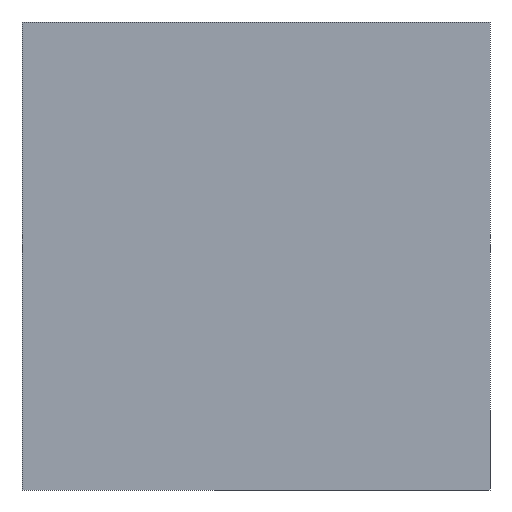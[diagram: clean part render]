
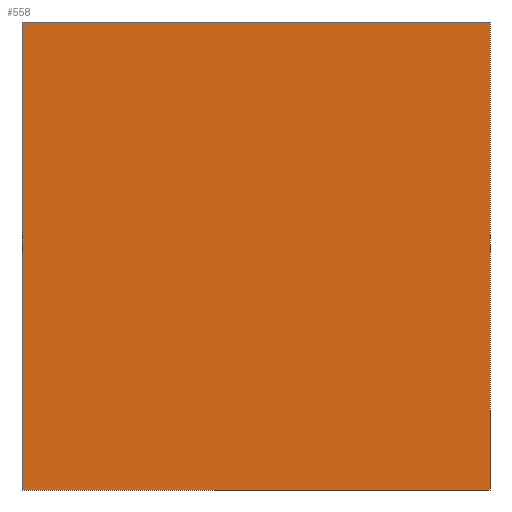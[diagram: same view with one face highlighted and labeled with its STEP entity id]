
A CAD part, left-side view. The second image highlights one B-rep face of the part: STEP entity #558.
In plain terms, the highlighted planar face has unit normal (-1, 0, 0).
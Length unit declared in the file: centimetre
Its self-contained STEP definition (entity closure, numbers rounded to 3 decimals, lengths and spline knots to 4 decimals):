
#14 = FACE_OUTER_BOUND ( 'NONE', #100, .T. ) ;
#22 = CARTESIAN_POINT ( 'NONE',  ( 0., 1000., 1000. ) ) ;
#46 = ORIENTED_EDGE ( 'NONE', *, *, #266, .T. ) ;
#58 = DIRECTION ( 'NONE',  ( 0., 0., -1. ) ) ;
#64 = CARTESIAN_POINT ( 'NONE',  ( 0., 1000., 1000. ) ) ;
#68 = CARTESIAN_POINT ( 'NONE',  ( 0., 1000., 0. ) ) ;
#90 = ORIENTED_EDGE ( 'NONE', *, *, #585, .F. ) ;
#100 = EDGE_LOOP ( 'NONE', ( #605, #90, #121, #46 ) ) ;
#104 = VECTOR ( 'NONE', #498, 100. ) ;
#121 = ORIENTED_EDGE ( 'NONE', *, *, #604, .F. ) ;
#122 = LINE ( 'NONE', #22, #359 ) ;
#184 = VERTEX_POINT ( 'NONE', #418 ) ;
#194 = CARTESIAN_POINT ( 'NONE',  ( 0., 1000., 0. ) ) ;
#199 = LINE ( 'NONE', #344, #104 ) ;
#266 = EDGE_CURVE ( 'NONE', #589, #311, #122, .T. ) ;
#299 = PLANE ( 'NONE',  #404 ) ;
#304 = CARTESIAN_POINT ( 'NONE',  ( 0., 1000., 1000. ) ) ;
#311 = VERTEX_POINT ( 'NONE', #68 ) ;
#321 = VECTOR ( 'NONE', #579, 100. ) ;
#331 = VERTEX_POINT ( 'NONE', #409 ) ;
#340 = DIRECTION ( 'NONE',  ( 1., 0., 0. ) ) ;
#344 = CARTESIAN_POINT ( 'NONE',  ( 0., 1000., 1000. ) ) ;
#359 = VECTOR ( 'NONE', #597, 100. ) ;
#397 = DIRECTION ( 'NONE',  ( 0., 0., -1. ) ) ;
#399 = LINE ( 'NONE', #584, #424 ) ;
#404 = AXIS2_PLACEMENT_3D ( 'NONE', #304, #340, #58 ) ;
#409 = CARTESIAN_POINT ( 'NONE',  ( 0., 0., 1000. ) ) ;
#418 = CARTESIAN_POINT ( 'NONE',  ( 0., 0., 0. ) ) ;
#424 = VECTOR ( 'NONE', #397, 100. ) ;
#472 = EDGE_CURVE ( 'NONE', #311, #184, #581, .T. ) ;
#498 = DIRECTION ( 'NONE',  ( 0., -1., 0. ) ) ;
#558 = ADVANCED_FACE ( 'NONE', ( #14 ), #299, .F. ) ;
#579 = DIRECTION ( 'NONE',  ( 0., -1., 0. ) ) ;
#581 = LINE ( 'NONE', #194, #321 ) ;
#584 = CARTESIAN_POINT ( 'NONE',  ( 0., 0., 1000. ) ) ;
#585 = EDGE_CURVE ( 'NONE', #331, #184, #399, .T. ) ;
#589 = VERTEX_POINT ( 'NONE', #64 ) ;
#597 = DIRECTION ( 'NONE',  ( 0., 0., -1. ) ) ;
#604 = EDGE_CURVE ( 'NONE', #589, #331, #199, .T. ) ;
#605 = ORIENTED_EDGE ( 'NONE', *, *, #472, .T. ) ;
